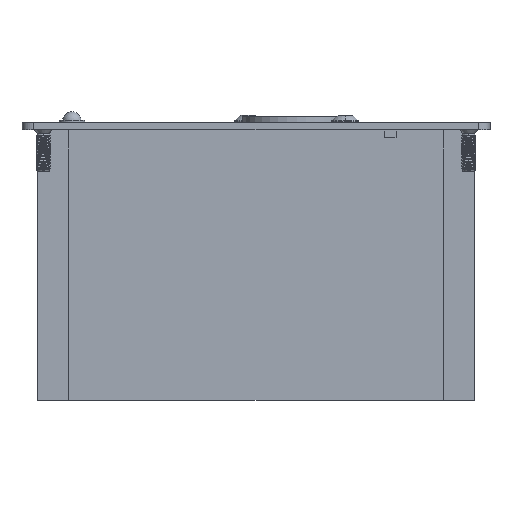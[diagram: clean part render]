
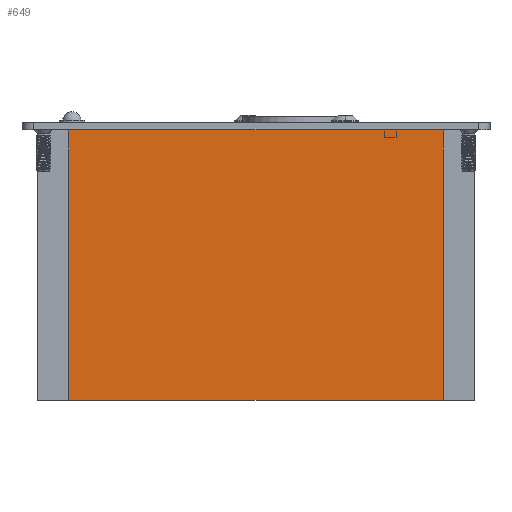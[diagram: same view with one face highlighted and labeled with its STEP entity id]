
A CAD part, front view. The second image highlights one B-rep face of the part: STEP entity #649.
In plain terms, the highlighted planar face has unit normal (0, -1, 0) as drawn and (0, 0, 1) by its records, which use the part's own axes.
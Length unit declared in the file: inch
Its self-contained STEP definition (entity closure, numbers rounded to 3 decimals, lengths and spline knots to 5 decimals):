
#649 = ADVANCED_FACE ( 'NONE', ( #15818 ), #18603, .F. ) ;
#1204 = EDGE_LOOP ( 'NONE', ( #3529, #3528, #3527, #3526 ) ) ;
#3526 = ORIENTED_EDGE ( 'NONE', *, *, #14503, .T. ) ;
#3527 = ORIENTED_EDGE ( 'NONE', *, *, #14507, .F. ) ;
#3528 = ORIENTED_EDGE ( 'NONE', *, *, #14506, .F. ) ;
#3529 = ORIENTED_EDGE ( 'NONE', *, *, #14505, .T. ) ;
#6884 = LINE ( 'NONE', #9410, #6887 ) ;
#6886 = LINE ( 'NONE', #9405, #6895 ) ;
#6887 = VECTOR ( 'NONE', #9412, 39.37008 ) ;
#6888 = LINE ( 'NONE', #9414, #6891 ) ;
#6890 = LINE ( 'NONE', #9416, #6893 ) ;
#6891 = VECTOR ( 'NONE', #9415, 39.37008 ) ;
#6893 = VECTOR ( 'NONE', #9418, 39.37008 ) ;
#6895 = VECTOR ( 'NONE', #9419, 39.37008 ) ;
#7068 = CARTESIAN_POINT ( 'NONE',  ( -1.12375, 0., 0.63706 ) ) ;
#7069 = CARTESIAN_POINT ( 'NONE',  ( 1.87625, 0., 0.63706 ) ) ;
#7074 = CARTESIAN_POINT ( 'NONE',  ( -1.12375, 2.16535, 0.63706 ) ) ;
#7076 = CARTESIAN_POINT ( 'NONE',  ( 1.87625, 2.16535, 0.63706 ) ) ;
#9405 = CARTESIAN_POINT ( 'NONE',  ( -1.12375, 2.16535, 0.63706 ) ) ;
#9410 = CARTESIAN_POINT ( 'NONE',  ( -1.12375, 2.16535, 0.63706 ) ) ;
#9412 = DIRECTION ( 'NONE',  ( 0., -1., 0. ) ) ;
#9414 = CARTESIAN_POINT ( 'NONE',  ( -1.12375, 0., 0.63706 ) ) ;
#9415 = DIRECTION ( 'NONE',  ( 1., 0., 0. ) ) ;
#9416 = CARTESIAN_POINT ( 'NONE',  ( 1.87625, 2.16535, 0.63706 ) ) ;
#9418 = DIRECTION ( 'NONE',  ( 0., -1., 0. ) ) ;
#9419 = DIRECTION ( 'NONE',  ( 1., 0., 0. ) ) ;
#13038 = AXIS2_PLACEMENT_3D ( 'NONE', #18604, #18609, #18610 ) ;
#13610 = VERTEX_POINT ( 'NONE', #7068 ) ;
#13611 = VERTEX_POINT ( 'NONE', #7069 ) ;
#13616 = VERTEX_POINT ( 'NONE', #7074 ) ;
#13619 = VERTEX_POINT ( 'NONE', #7076 ) ;
#14503 = EDGE_CURVE ( 'NONE', #13616, #13610, #6884, .T. ) ;
#14505 = EDGE_CURVE ( 'NONE', #13610, #13611, #6888, .T. ) ;
#14506 = EDGE_CURVE ( 'NONE', #13619, #13611, #6890, .T. ) ;
#14507 = EDGE_CURVE ( 'NONE', #13616, #13619, #6886, .T. ) ;
#15818 = FACE_OUTER_BOUND ( 'NONE', #1204, .T. ) ;
#18603 = PLANE ( 'NONE',  #13038 ) ;
#18604 = CARTESIAN_POINT ( 'NONE',  ( -1.12375, 2.16535, 0.63706 ) ) ;
#18609 = DIRECTION ( 'NONE',  ( 0., 0., -1. ) ) ;
#18610 = DIRECTION ( 'NONE',  ( -1., 0., 0. ) ) ;
